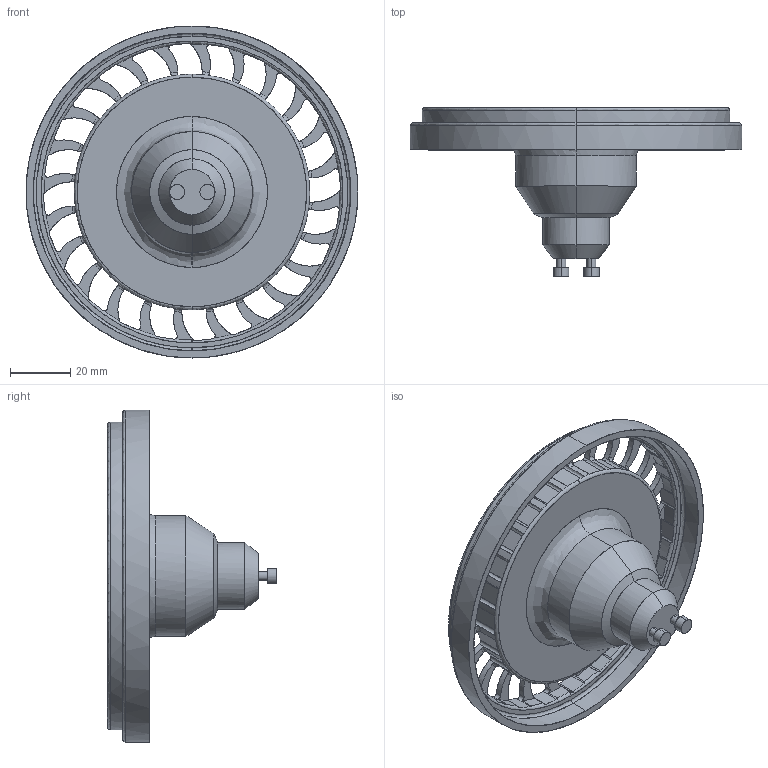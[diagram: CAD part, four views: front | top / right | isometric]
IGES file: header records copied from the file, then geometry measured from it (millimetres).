
Start section: SolidWorks IGES file using NURBS representation for surfaces
Global section: file name: Z:\Modele 3D_WWW\_KOLEKCJE_WWW\REFLECTOR\REFLECTOR-LED-GU10-ES111-DIFFUSER-9344-9212-9342-9211\REFLECTOR-LED-GU10-ES111-DIFFUSER-9344-9212-9342-9211.IGS; native system: SolidWorks 2021; preprocessor: SolidWorks 2021; author: gabriela.tworek; date: 210914.125614; units: millimetre
Bounding box: 110 x 56 x 110 mm (x, y, z)
Surface area: 46252.1 mm2 (no closed solid volume)
Topology: 0 solids, 0 shells, 455 faces, 6888 edges, 6888 vertices
Faces by surface type: bspline 455
